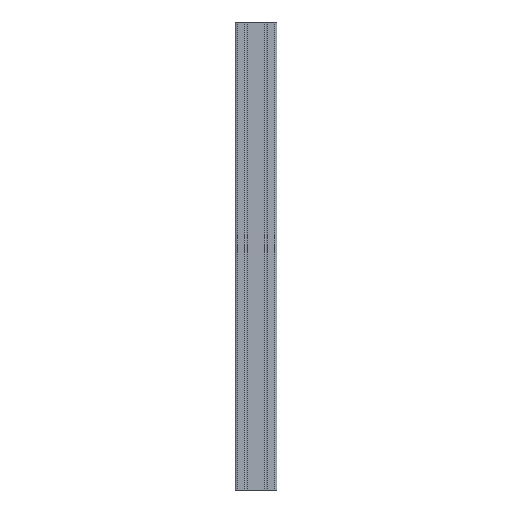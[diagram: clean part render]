
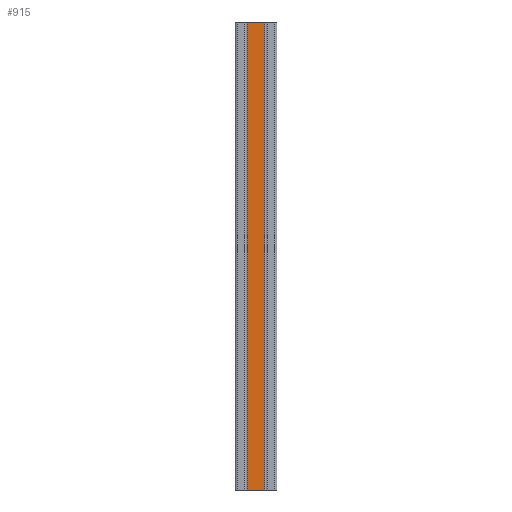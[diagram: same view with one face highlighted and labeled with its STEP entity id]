
A CAD part, left-side view. The second image highlights one B-rep face of the part: STEP entity #915.
In plain terms, the highlighted planar face has unit normal (-1, 0, 0).
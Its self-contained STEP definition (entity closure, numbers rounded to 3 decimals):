
#29 = CARTESIAN_POINT ( 'NONE',  ( -12.5, 9.45, 878.304 ) ) ;
#97 = DIRECTION ( 'NONE',  ( 0., -1., 0. ) ) ;
#114 = EDGE_LOOP ( 'NONE', ( #630, #373, #1592, #645 ) ) ;
#169 = DIRECTION ( 'NONE',  ( 0., -1., 0. ) ) ;
#178 = EDGE_CURVE ( 'NONE', #1045, #1024, #538, .T. ) ;
#255 = EDGE_CURVE ( 'NONE', #1045, #708, #1637, .T. ) ;
#373 = ORIENTED_EDGE ( 'NONE', *, *, #255, .T. ) ;
#391 = VECTOR ( 'NONE', #97, 1000. ) ;
#398 = CARTESIAN_POINT ( 'NONE',  ( -12.5, -9.45, 250. ) ) ;
#455 = DIRECTION ( 'NONE',  ( 0., 0., -1. ) ) ;
#534 = VECTOR ( 'NONE', #455, 1000. ) ;
#538 = LINE ( 'NONE', #29, #1205 ) ;
#569 = DIRECTION ( 'NONE',  ( 0., 0., 1. ) ) ;
#630 = ORIENTED_EDGE ( 'NONE', *, *, #178, .F. ) ;
#645 = ORIENTED_EDGE ( 'NONE', *, *, #858, .F. ) ;
#708 = VERTEX_POINT ( 'NONE', #847 ) ;
#734 = EDGE_CURVE ( 'NONE', #997, #708, #1281, .T. ) ;
#783 = DIRECTION ( 'NONE',  ( 0., -1., 0. ) ) ;
#807 = VECTOR ( 'NONE', #169, 1000. ) ;
#839 = AXIS2_PLACEMENT_3D ( 'NONE', #1360, #936, #783 ) ;
#847 = CARTESIAN_POINT ( 'NONE',  ( -12.5, -9.45, -250. ) ) ;
#858 = EDGE_CURVE ( 'NONE', #1024, #997, #893, .T. ) ;
#878 = CARTESIAN_POINT ( 'NONE',  ( -12.5, -9.45, 878.304 ) ) ;
#893 = LINE ( 'NONE', #1318, #391 ) ;
#915 = ADVANCED_FACE ( 'NONE', ( #955 ), #1368, .T. ) ;
#936 = DIRECTION ( 'NONE',  ( -1., 0., 0. ) ) ;
#955 = FACE_OUTER_BOUND ( 'NONE', #114, .T. ) ;
#997 = VERTEX_POINT ( 'NONE', #398 ) ;
#1024 = VERTEX_POINT ( 'NONE', #1480 ) ;
#1045 = VERTEX_POINT ( 'NONE', #1625 ) ;
#1205 = VECTOR ( 'NONE', #569, 1000. ) ;
#1281 = LINE ( 'NONE', #878, #534 ) ;
#1318 = CARTESIAN_POINT ( 'NONE',  ( -12.5, 20.051, 250. ) ) ;
#1360 = CARTESIAN_POINT ( 'NONE',  ( -12.5, 20.051, -250. ) ) ;
#1368 = PLANE ( 'NONE',  #839 ) ;
#1372 = CARTESIAN_POINT ( 'NONE',  ( -12.5, 20.051, -250. ) ) ;
#1480 = CARTESIAN_POINT ( 'NONE',  ( -12.5, 9.45, 250. ) ) ;
#1592 = ORIENTED_EDGE ( 'NONE', *, *, #734, .F. ) ;
#1625 = CARTESIAN_POINT ( 'NONE',  ( -12.5, 9.45, -250. ) ) ;
#1637 = LINE ( 'NONE', #1372, #807 ) ;
